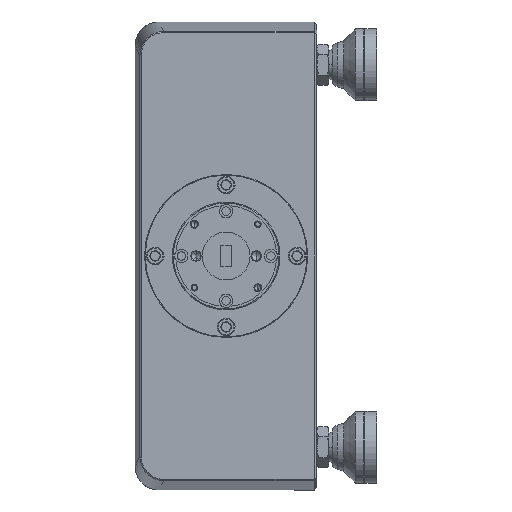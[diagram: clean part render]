
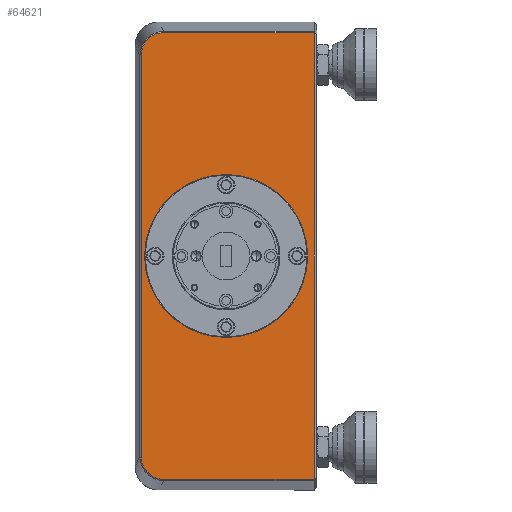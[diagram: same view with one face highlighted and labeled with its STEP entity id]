
A CAD part, left-side view. The second image highlights one B-rep face of the part: STEP entity #64621.
In plain terms, the highlighted planar face has unit normal (-1, 0, 0).
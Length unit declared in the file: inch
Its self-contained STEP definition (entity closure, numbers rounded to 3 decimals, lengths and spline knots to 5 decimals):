
#23 = AXIS2_PLACEMENT_3D ( 'NONE', #67393, #67787, #22156 ) ;
#57 = CARTESIAN_POINT ( 'NONE',  ( -2.75, 5.60156, 2.32944 ) ) ;
#902 = EDGE_CURVE ( 'NONE', #43826, #41458, #41371, .T. ) ;
#3574 = CARTESIAN_POINT ( 'NONE',  ( -2.75, 5.57073, -2.33561 ) ) ;
#3980 = CARTESIAN_POINT ( 'NONE',  ( -2.75, 5.74552, -2.21814 ) ) ;
#7428 = ORIENTED_EDGE ( 'NONE', *, *, #13024, .T. ) ;
#8896 = LINE ( 'NONE', #65755, #41385 ) ;
#9433 = EDGE_CURVE ( 'NONE', #73307, #22519, #71494, .T. ) ;
#9493 = DIRECTION ( 'NONE',  ( 0., -1., 0. ) ) ;
#9888 = EDGE_CURVE ( 'NONE', #22519, #73307, #38120, .T. ) ;
#11262 = CARTESIAN_POINT ( 'NONE',  ( -2.75, 5.77515, -2.09869 ) ) ;
#12928 = CARTESIAN_POINT ( 'NONE',  ( -2.75, 5.77515, 2.09869 ) ) ;
#13024 = EDGE_CURVE ( 'NONE', #21595, #72245, #60041, .T. ) ;
#14238 = VERTEX_POINT ( 'NONE', #66683 ) ;
#15600 = EDGE_LOOP ( 'NONE', ( #22936, #31919 ) ) ;
#16044 = EDGE_CURVE ( 'NONE', #72245, #43826, #51175, .T. ) ;
#18313 = CARTESIAN_POINT ( 'NONE',  ( -2.75, 5.76903, 2.16087 ) ) ;
#21595 = VERTEX_POINT ( 'NONE', #38721 ) ;
#22156 = DIRECTION ( 'NONE',  ( 0., 0., 1. ) ) ;
#22254 = CARTESIAN_POINT ( 'NONE',  ( -2.75, 5.72807, -2.24446 ) ) ;
#22519 = VERTEX_POINT ( 'NONE', #74892 ) ;
#22835 = CARTESIAN_POINT ( 'NONE',  ( -2.75, 3.96748, 0. ) ) ;
#22936 = ORIENTED_EDGE ( 'NONE', *, *, #9433, .F. ) ;
#23905 = ORIENTED_EDGE ( 'NONE', *, *, #16044, .T. ) ;
#25289 = CARTESIAN_POINT ( 'NONE',  ( -2.75, 5.77515, 2.12984 ) ) ;
#27485 = VECTOR ( 'NONE', #58261, 39.37008 ) ;
#27645 = DIRECTION ( 'NONE',  ( 0., 0., -1. ) ) ;
#28884 = CARTESIAN_POINT ( 'NONE',  ( -2.75, 5.53978, -2.3356 ) ) ;
#29341 = VECTOR ( 'NONE', #9493, 39.37008 ) ;
#29365 = CARTESIAN_POINT ( 'NONE',  ( -2.75, 4.88748, -2.3356 ) ) ;
#29463 = DIRECTION ( 'NONE',  ( 0., 0., 1. ) ) ;
#29575 = CARTESIAN_POINT ( 'NONE',  ( -2.75, 3.96748, -2.3356 ) ) ;
#31919 = ORIENTED_EDGE ( 'NONE', *, *, #9888, .F. ) ;
#32066 = EDGE_LOOP ( 'NONE', ( #74986, #68122, #79824, #7428, #23905, #71911 ) ) ;
#34137 = AXIS2_PLACEMENT_3D ( 'NONE', #55646, #74271, #68097 ) ;
#36250 = VECTOR ( 'NONE', #29463, 39.37008 ) ;
#36255 = CARTESIAN_POINT ( 'NONE',  ( -2.75, 5.53978, -2.3356 ) ) ;
#38120 = CIRCLE ( 'NONE', #34137, 0.8525 ) ;
#38721 = CARTESIAN_POINT ( 'NONE',  ( -2.75, 5.53978, 2.3356 ) ) ;
#41305 = CARTESIAN_POINT ( 'NONE',  ( -2.75, 5.77515, -2.09869 ) ) ;
#41371 = B_SPLINE_CURVE_WITH_KNOTS ( 'NONE', 3,
 ( #41305, #53735, #66651, #3980, #22254, #47542, #60840, #54592, #3574, #28884 ),
 .UNSPECIFIED., .F., .F.,
 ( 4, 2, 2, 2, 4 ),
 ( 0., 0.25, 0.5, 0.75, 1. ),
 .UNSPECIFIED. ) ;
#41385 = VECTOR ( 'NONE', #78929, 39.37008 ) ;
#41458 = VERTEX_POINT ( 'NONE', #36255 ) ;
#42546 = CARTESIAN_POINT ( 'NONE',  ( -2.75, 4.88748, 0.8525 ) ) ;
#43826 = VERTEX_POINT ( 'NONE', #11262 ) ;
#47542 = CARTESIAN_POINT ( 'NONE',  ( -2.75, 5.6846, -2.28822 ) ) ;
#47804 = AXIS2_PLACEMENT_3D ( 'NONE', #58347, #71584, #27645 ) ;
#49767 = CARTESIAN_POINT ( 'NONE',  ( -2.75, 5.65846, 2.30578 ) ) ;
#50188 = CARTESIAN_POINT ( 'NONE',  ( -2.75, 5.72807, 2.24446 ) ) ;
#50986 = CARTESIAN_POINT ( 'NONE',  ( -2.75, 5.74551, 2.21814 ) ) ;
#51175 = LINE ( 'NONE', #71505, #27485 ) ;
#53735 = CARTESIAN_POINT ( 'NONE',  ( -2.75, 5.77515, -2.12976 ) ) ;
#54592 = CARTESIAN_POINT ( 'NONE',  ( -2.75, 5.60156, -2.32944 ) ) ;
#55187 = FACE_BOUND ( 'NONE', #15600, .T. ) ;
#55646 = CARTESIAN_POINT ( 'NONE',  ( -2.75, 4.88748, 0. ) ) ;
#56882 = CARTESIAN_POINT ( 'NONE',  ( -2.75, 5.57066, 2.33561 ) ) ;
#57280 = CARTESIAN_POINT ( 'NONE',  ( -2.75, 5.6846, 2.28822 ) ) ;
#58261 = DIRECTION ( 'NONE',  ( 0., 0., -1. ) ) ;
#58347 = CARTESIAN_POINT ( 'NONE',  ( -2.75, 4.88748, 0. ) ) ;
#60041 = B_SPLINE_CURVE_WITH_KNOTS ( 'NONE', 3,
 ( #63521, #56882, #57, #49767, #57280, #50188, #50986, #18313, #25289, #12928 ),
 .UNSPECIFIED., .F., .F.,
 ( 4, 2, 2, 2, 4 ),
 ( 0., 0.25, 0.5, 0.75, 1. ),
 .UNSPECIFIED. ) ;
#60840 = CARTESIAN_POINT ( 'NONE',  ( -2.75, 5.65845, -2.30578 ) ) ;
#60939 = EDGE_CURVE ( 'NONE', #41458, #77538, #66332, .T. ) ;
#61018 = PLANE ( 'NONE',  #47804 ) ;
#61834 = FACE_OUTER_BOUND ( 'NONE', #32066, .T. ) ;
#62424 = EDGE_CURVE ( 'NONE', #14238, #21595, #8896, .T. ) ;
#63521 = CARTESIAN_POINT ( 'NONE',  ( -2.75, 5.53978, 2.3356 ) ) ;
#64621 = ADVANCED_FACE ( 'NONE', ( #55187, #61834 ), #61018, .F. ) ;
#65755 = CARTESIAN_POINT ( 'NONE',  ( -2.75, 4.88748, 2.3356 ) ) ;
#66261 = EDGE_CURVE ( 'NONE', #77538, #14238, #73403, .T. ) ;
#66332 = LINE ( 'NONE', #29365, #29341 ) ;
#66651 = CARTESIAN_POINT ( 'NONE',  ( -2.75, 5.76902, -2.16087 ) ) ;
#66683 = CARTESIAN_POINT ( 'NONE',  ( -2.75, 3.96748, 2.3356 ) ) ;
#67393 = CARTESIAN_POINT ( 'NONE',  ( -2.75, 4.88748, 0. ) ) ;
#67787 = DIRECTION ( 'NONE',  ( -1., 0., 0. ) ) ;
#68097 = DIRECTION ( 'NONE',  ( 0., 0., 1. ) ) ;
#68122 = ORIENTED_EDGE ( 'NONE', *, *, #66261, .T. ) ;
#71494 = CIRCLE ( 'NONE', #23, 0.8525 ) ;
#71505 = CARTESIAN_POINT ( 'NONE',  ( -2.75, 5.77515, 0. ) ) ;
#71584 = DIRECTION ( 'NONE',  ( 1., 0., 0. ) ) ;
#71911 = ORIENTED_EDGE ( 'NONE', *, *, #902, .T. ) ;
#72245 = VERTEX_POINT ( 'NONE', #76367 ) ;
#73307 = VERTEX_POINT ( 'NONE', #42546 ) ;
#73403 = LINE ( 'NONE', #22835, #36250 ) ;
#74271 = DIRECTION ( 'NONE',  ( -1., 0., 0. ) ) ;
#74892 = CARTESIAN_POINT ( 'NONE',  ( -2.75, 4.88748, -0.8525 ) ) ;
#74986 = ORIENTED_EDGE ( 'NONE', *, *, #60939, .T. ) ;
#76367 = CARTESIAN_POINT ( 'NONE',  ( -2.75, 5.77515, 2.09869 ) ) ;
#77538 = VERTEX_POINT ( 'NONE', #29575 ) ;
#78929 = DIRECTION ( 'NONE',  ( 0., 1., 0. ) ) ;
#79824 = ORIENTED_EDGE ( 'NONE', *, *, #62424, .T. ) ;
